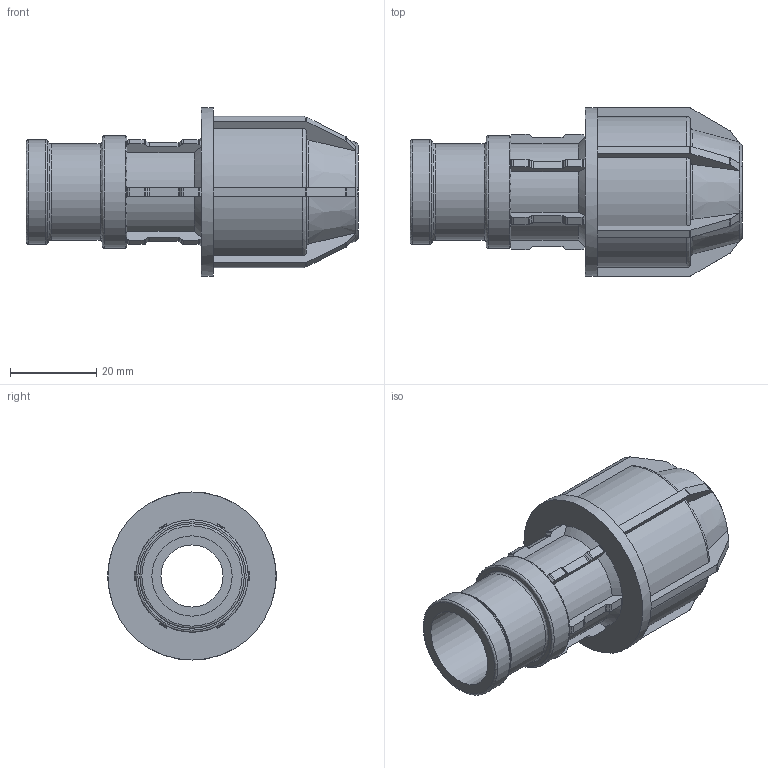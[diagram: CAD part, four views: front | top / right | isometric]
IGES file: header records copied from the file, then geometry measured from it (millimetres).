
Global section: file name: 140300016005.ipt; native system: Autodesk Inventor 2015; preprocessor: unknown; author: KIM; date: 20180409.131001; units: millimetre
Bounding box: 77 x 39 x 39 mm (x, y, z)
Volume: 32254 mm3; surface area: 14024.2 mm2
Topology: 1 solids, 1 shells, 256 faces, 730 edges, 470 vertices
Faces by surface type: plane 160, cylinder 52, revolution 36, cone 8
Full cylindrical faces by diameter (mm): 22.357 x1, 24.22 x1, 26.083 x1, 39 x1
